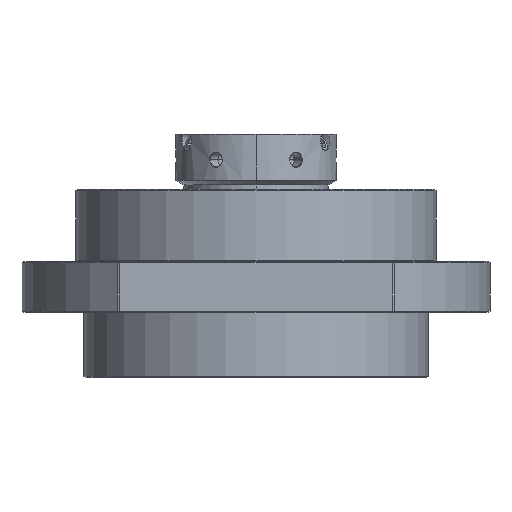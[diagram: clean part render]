
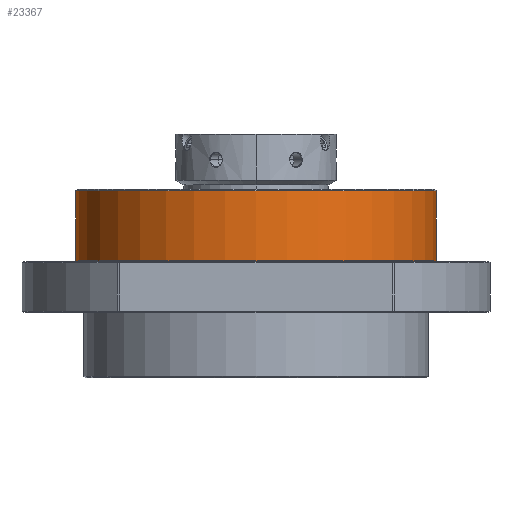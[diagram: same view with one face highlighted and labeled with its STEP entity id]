
A CAD part, front view. The second image highlights one B-rep face of the part: STEP entity #23367.
In plain terms, the highlighted cylindrical face has radius 78.5 mm (diameter 157 mm), a partial arc.
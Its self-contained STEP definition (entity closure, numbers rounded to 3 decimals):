
#34 = FACE_OUTER_BOUND ( 'NONE', #21219, .T. ) ;
#232 = VERTEX_POINT ( 'NONE', #14207 ) ;
#861 = CARTESIAN_POINT ( 'NONE',  ( 0., 0., 31. ) ) ;
#1853 = CARTESIAN_POINT ( 'NONE',  ( -78.5, 0., 31.5 ) ) ;
#2005 = DIRECTION ( 'NONE',  ( -1., 0., 0. ) ) ;
#2963 = EDGE_CURVE ( 'NONE', #13936, #9183, #17627, .T. ) ;
#3139 = VERTEX_POINT ( 'NONE', #10656 ) ;
#3461 = EDGE_CURVE ( 'NONE', #232, #9183, #28937, .T. ) ;
#6747 = CARTESIAN_POINT ( 'NONE',  ( 0., 0., 0.5 ) ) ;
#9183 = VERTEX_POINT ( 'NONE', #10768 ) ;
#10656 = CARTESIAN_POINT ( 'NONE',  ( -78.5, 0., 31. ) ) ;
#10768 = CARTESIAN_POINT ( 'NONE',  ( 78.5, 0., 0.5 ) ) ;
#11212 = ORIENTED_EDGE ( 'NONE', *, *, #19802, .T. ) ;
#12320 = CIRCLE ( 'NONE', #22668, 78.5 ) ;
#12471 = DIRECTION ( 'NONE',  ( 1., 0., 0. ) ) ;
#12754 = DIRECTION ( 'NONE',  ( 1., 0., 0. ) ) ;
#13239 = AXIS2_PLACEMENT_3D ( 'NONE', #6747, #16522, #12471 ) ;
#13292 = DIRECTION ( 'NONE',  ( 0., 0., -1. ) ) ;
#13936 = VERTEX_POINT ( 'NONE', #24680 ) ;
#14207 = CARTESIAN_POINT ( 'NONE',  ( 78.5, 0., 31. ) ) ;
#15714 = VECTOR ( 'NONE', #26493, 1000. ) ;
#16286 = VECTOR ( 'NONE', #27646, 1000. ) ;
#16522 = DIRECTION ( 'NONE',  ( 0., 0., 1. ) ) ;
#17627 = CIRCLE ( 'NONE', #13239, 78.5 ) ;
#17842 = EDGE_CURVE ( 'NONE', #3139, #13936, #18187, .T. ) ;
#18187 = LINE ( 'NONE', #1853, #16286 ) ;
#19645 = DIRECTION ( 'NONE',  ( 0., 0., -1. ) ) ;
#19802 = EDGE_CURVE ( 'NONE', #232, #3139, #12320, .T. ) ;
#21219 = EDGE_LOOP ( 'NONE', ( #28034, #11212, #28829, #28289 ) ) ;
#22668 = AXIS2_PLACEMENT_3D ( 'NONE', #861, #19645, #12754 ) ;
#22774 = CARTESIAN_POINT ( 'NONE',  ( 0., 0., 31.5 ) ) ;
#23367 = ADVANCED_FACE ( 'NONE', ( #34 ), #24915, .T. ) ;
#24047 = CARTESIAN_POINT ( 'NONE',  ( 78.5, 0., 31.5 ) ) ;
#24680 = CARTESIAN_POINT ( 'NONE',  ( -78.5, 0., 0.5 ) ) ;
#24915 = CYLINDRICAL_SURFACE ( 'NONE', #30066, 78.5 ) ;
#26493 = DIRECTION ( 'NONE',  ( 0., 0., -1. ) ) ;
#27646 = DIRECTION ( 'NONE',  ( 0., 0., -1. ) ) ;
#28034 = ORIENTED_EDGE ( 'NONE', *, *, #3461, .F. ) ;
#28289 = ORIENTED_EDGE ( 'NONE', *, *, #2963, .T. ) ;
#28829 = ORIENTED_EDGE ( 'NONE', *, *, #17842, .T. ) ;
#28937 = LINE ( 'NONE', #24047, #15714 ) ;
#30066 = AXIS2_PLACEMENT_3D ( 'NONE', #22774, #13292, #2005 ) ;
